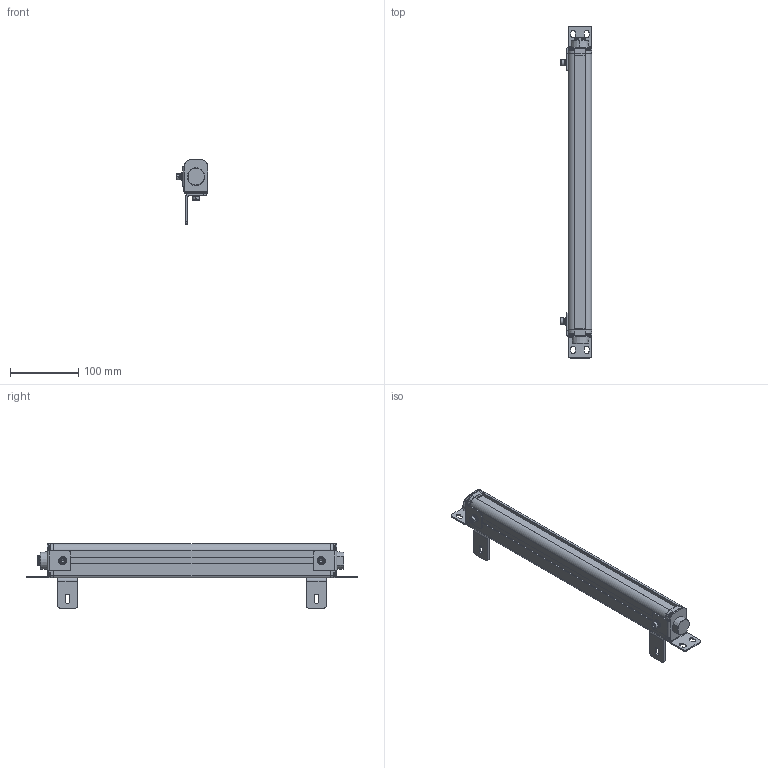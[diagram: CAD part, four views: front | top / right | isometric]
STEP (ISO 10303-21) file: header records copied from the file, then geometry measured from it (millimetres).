
FILE_DESCRIPTION((''),'2;1');
FILE_NAME('ESN--000_ASM','2021-08-11T16:00:57',('18720616900'),(''),'CREO PARAMETRIC BY PTC INC, 2019010','CREO PARAMETRIC BY PTC INC, 2019010','');
FILE_SCHEMA(('CONFIG_CONTROL_DESIGN'));
Products named in the file (22): 00; 000; _0002; _0003; _0004; 5000; 5--0001; ESN_50001_ASM; ST-3-120001; L10001; M6-8--0001; M6-1--00; M6-1-00; M6-80001_ASM; L1--0001_ASM; H1--000; H1--0003_ASM; H1--0001_ASM; ESN--000_ASM
Assembly tree (35 placements, depth 4):
  ESN--000_ASM
    00
    000
    _0002
    _0003
    _0004
    000
    ESN_50001_ASM
      5000
      5--0001  x5
    ST-3-120001  x8
    L1--0001_ASM  x2
      L10001
      M6-80001_ASM
        M6-8--0001
        M6-1--00
        M6-1-00
        00
    H1--0003_ASM
      H1--000
      M6-80001_ASM
        M6-8--0001
        M6-1--00
        M6-1-00
        00
    H1--0001_ASM
      H1--000
      M6-80001_ASM
        M6-8--0001
        M6-1--00
        M6-1-00
        00
Bounding box: 46.5 x 487 x 94.95 mm (x, y, z)
Volume: 658173.2 mm3; surface area: 164990.7 mm2
Topology: 40 solids, 40 shells, 1785 faces, 4708 edges, 3012 vertices
Faces by surface type: plane 583, cylinder 416, bspline 362, cone 291, torus 107, sphere 26
Entity records: 48222 total; most frequent: CARTESIAN_POINT 24957, ORIENTED_EDGE 5136, DIRECTION 4189, EDGE_CURVE 2568, VERTEX_POINT 1669, AXIS2_PLACEMENT_3D 1488, VECTOR 1213, LINE 1213
